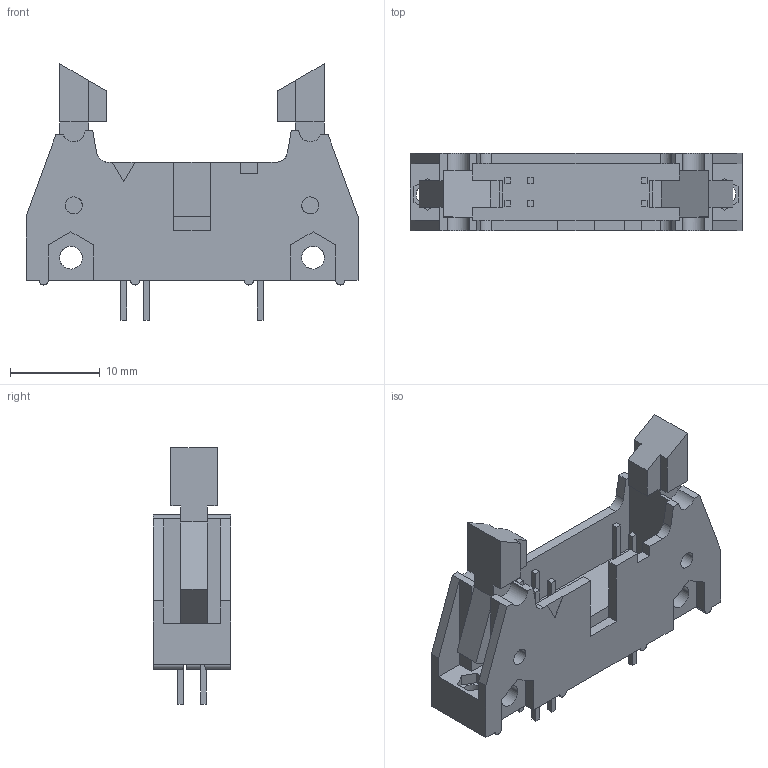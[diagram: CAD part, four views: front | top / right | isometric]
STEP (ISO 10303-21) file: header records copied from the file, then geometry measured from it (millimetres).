
FILE_DESCRIPTION( ( 'Unknown' ), '1' );
FILE_NAME( '//usatfca2/prj8/Solid Edge/Solid Edge WIP/cad models in process/NXXXX-XXXXRB_3000 series_ts0772/3314/3314-6503.stp', 'Unknown', ( 'Unknown' ), ( 'Unknown' ), 'XStep 1.0', 'Unknown', ' ' );
FILE_SCHEMA( ( 'CONFIG_CONTROL_DESIGN' ) );
Length unit declared in the file: metre
Products named in the file (1): 1
Bounding box: 37.08 x 8.64 x 28.65 mm (x, y, z)
Volume: 2995.6 mm3; surface area: 3341.1 mm2
Topology: 1 solids, 1 shells, 227 faces, 607 edges, 392 vertices
Faces by surface type: plane 201, cylinder 26
Entity records: 8086 total; most frequent: CARTESIAN_POINT 3566, ORIENTED_EDGE 1214, EDGE_CURVE 607, B_SPLINE_CURVE_WITH_KNOTS 599, DIRECTION 464, VERTEX_POINT 392, EDGE_LOOP 249, AXIS2_PLACEMENT_3D 228
